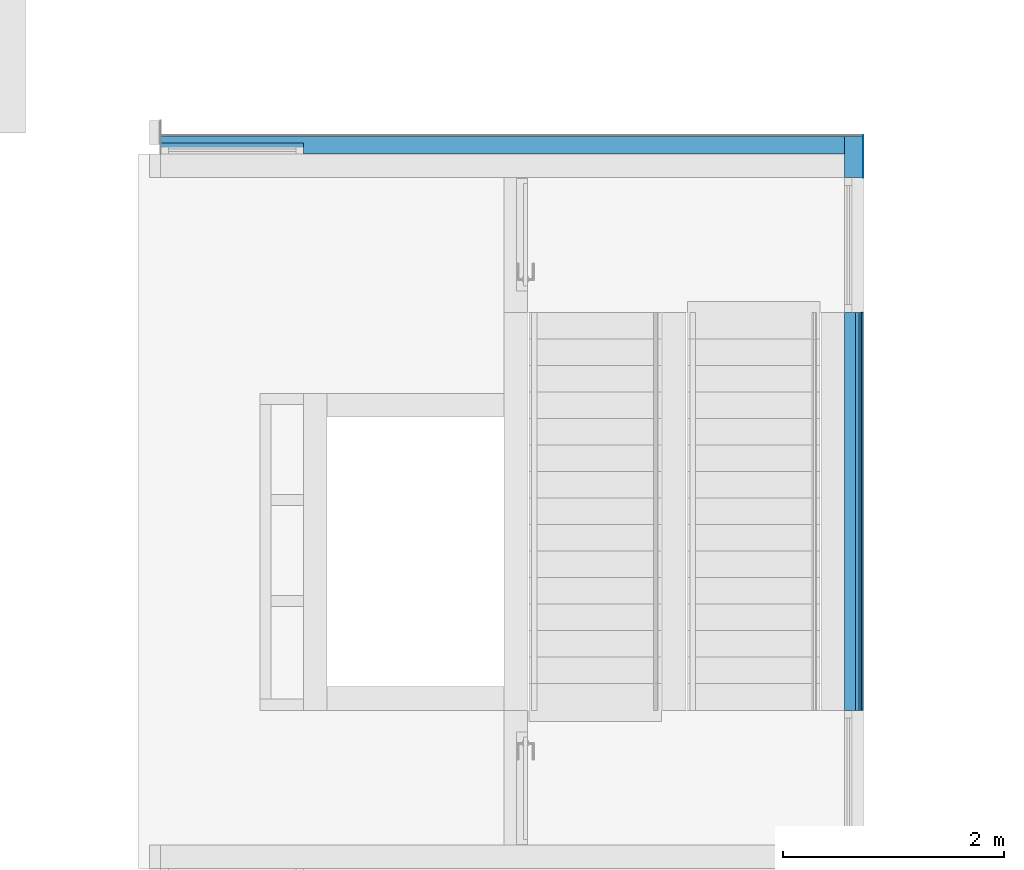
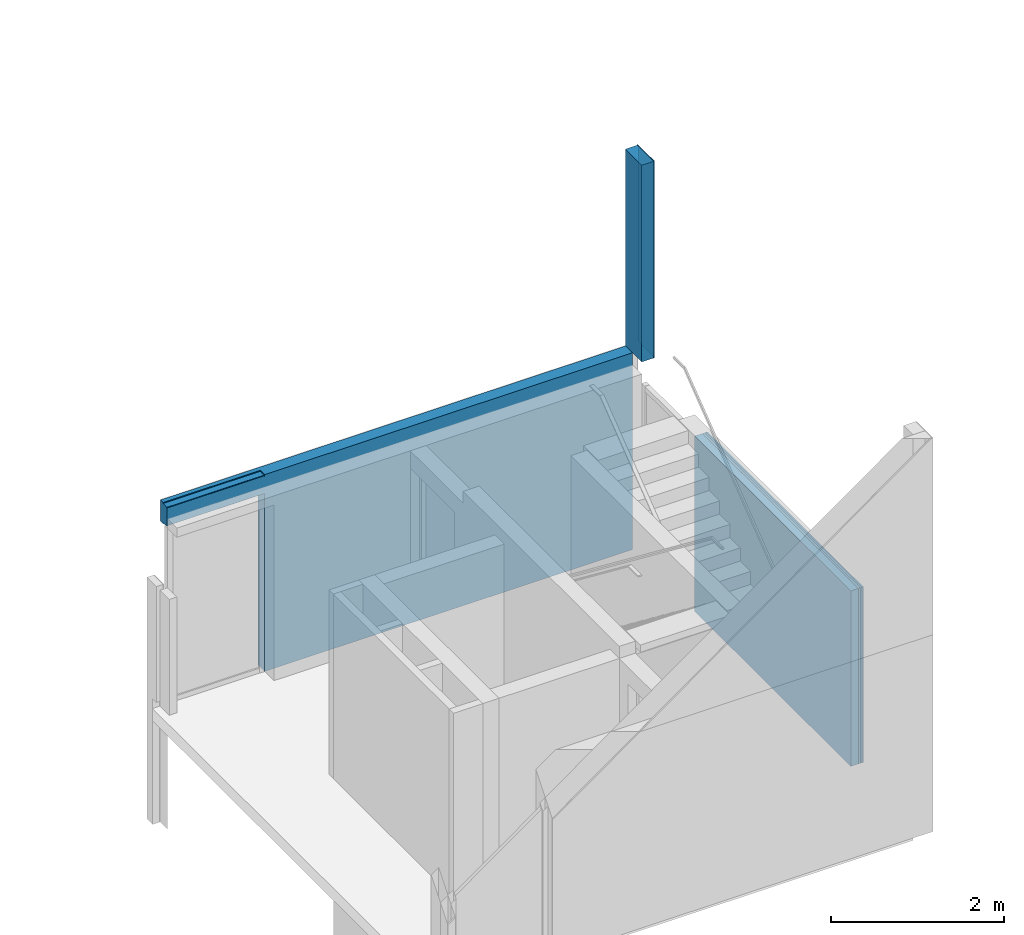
# One storey, part 75 of 99: 8 building element parts, 1 opening, 3 elements without a shape of their own.
"""IFC2X3 building model written with IfcOpenShell, lengths in millimetres."""

import ifcopenshell
import ifcopenshell.guid

model = None  # the IFC model being written
_history = None  # IfcOwnerHistory: only IFC2X3 demands one
_inside = {}  # id of a spatial element -> (the spatial element, [elements in it])
_under = {}  # id of a project, library or spatial element -> (it, [spatial elements below it])
_declared = {}  # id of a project -> (the project, [libraries it declares])
_typed = {}  # id of a type object -> (the type object, [elements of that type])
_made_of = {}  # id of a material, layer set ... -> (it, [elements and type objects made of it])


def new_model(schema):
    """Start an empty IFC model of exactly this schema.

    Asked for "IFC4X3", IfcOpenShell would pick the latest addendum, in which some entities
    have other attributes; the version numbers below select the first issue.
    IFC2X3 requires an IfcOwnerHistory on every rooted entity: one is made here for all.
    """
    global model, _history
    if schema == "IFC4X3":
        model = ifcopenshell.file(schema_version=(4, 3, 0, 0))
    else:
        model = ifcopenshell.file(schema=schema)
    _inside.clear()
    _under.clear()
    _declared.clear()
    _typed.clear()
    _made_of.clear()
    _history = None
    if model.schema == "IFC2X3":
        org = make("IfcOrganization", Name="unknown")
        user = make(
            "IfcPersonAndOrganization",
            ThePerson=make("IfcPerson", FamilyName="unknown"),
            TheOrganization=org,
        )
        app = make(
            "IfcApplication",
            ApplicationDeveloper=org,
            Version="unknown",
            ApplicationFullName="unknown",
            ApplicationIdentifier="unknown",
        )
        _history = make(
            "IfcOwnerHistory",
            OwningUser=user,
            OwningApplication=app,
            ChangeAction="ADDED",
            CreationDate=0,
        )
    return model


def make(cls, **values):
    """One entity of the class cls with the attributes given. An attribute that is None is left unset."""
    return model.create_entity(
        cls, **{name: value for name, value in values.items() if value is not None}
    )


def entity(cls, *values):
    """Any entity or typed value of the class cls, its attributes in the order of the schema. None: left unset."""
    e = model.create_entity(cls)
    for i, value in enumerate(values):
        if value is not None:
            e[i] = value
    return e


def rooted(cls, **values):
    """An entity with a GlobalId (a new one), such as an element, a storey or a relation."""
    return make(cls, GlobalId=ifcopenshell.guid.new(), OwnerHistory=_history, **values)


def si_unit(unit_type, name, prefix=None):
    """IfcSIUnit, for example si_unit("LENGTHUNIT", "METRE", prefix="MILLI")."""
    return make("IfcSIUnit", UnitType=unit_type, Prefix=prefix, Name=name)


def converted_unit(unit_type, name, factor, base, dimensions=None, offset=None):
    """IfcConversionBasedUnit, such as the inch: factor (a typed value) times the base unit."""
    return make(
        "IfcConversionBasedUnit"
        if offset is None
        else "IfcConversionBasedUnitWithOffset",
        ConversionOffset=offset,
        Dimensions=None
        if dimensions is None
        else entity("IfcDimensionalExponents", *dimensions),
        UnitType=unit_type,
        Name=name,
        ConversionFactor=make(
            "IfcMeasureWithUnit", ValueComponent=factor, UnitComponent=base
        ),
    )


def derived_unit(unit_type, elements):
    """IfcDerivedUnit: a product of units, each with its exponent."""
    return make(
        "IfcDerivedUnit",
        Elements=[
            make("IfcDerivedUnitElement", Unit=unit, Exponent=power)
            for unit, power in elements
        ],
        UnitType=unit_type,
    )


def money_unit(currency):
    """IfcMonetaryUnit."""
    return make("IfcMonetaryUnit", Currency=currency)


def assignment(units):
    """IfcUnitAssignment: the units of a project."""
    return None if units is None else make("IfcUnitAssignment", Units=units)


def point(xyz):
    """IfcCartesianPoint."""
    return None if xyz is None else make("IfcCartesianPoint", Coordinates=xyz)


def direction(xyz):
    """IfcDirection."""
    return None if xyz is None else make("IfcDirection", DirectionRatios=xyz)


def frame(location, z_axis=None, x_axis=None):
    """IfcAxis2Placement3D, a coordinate frame: its origin and axes. An axis left out is left unset."""
    return make(
        "IfcAxis2Placement3D",
        Location=point(location),
        Axis=direction(z_axis),
        RefDirection=direction(x_axis),
    )


def origin_with_axes():
    """The frame at (0, 0, 0) with the z axis (0, 0, 1) and the x axis (1, 0, 0) written out."""
    return frame((0.0, 0.0, 0.0), z_axis=(0.0, 0.0, 1.0), x_axis=(1.0, 0.0, 0.0))


def place(relative_to, where):
    """IfcLocalPlacement: puts the frame where relative to a parent placement (None: the world)."""
    return make(
        "IfcLocalPlacement", PlacementRelTo=relative_to, RelativePlacement=where
    )


def context(
    kind, dimensions, precision=None, world=None, true_north=None, identifier=None
):
    """IfcGeometricRepresentationContext, for example the 3D "Model" context."""
    return make(
        "IfcGeometricRepresentationContext",
        ContextIdentifier=identifier,
        ContextType=kind,
        CoordinateSpaceDimension=dimensions,
        Precision=precision,
        WorldCoordinateSystem=world,
        TrueNorth=true_north,
    )


def subcontext(parent, identifier, kind, view, scale=None):
    """IfcGeometricRepresentationSubContext, for example "Body" below "Model"."""
    return make(
        "IfcGeometricRepresentationSubContext",
        ContextIdentifier=identifier,
        ContextType=kind,
        ParentContext=parent,
        TargetScale=scale,
        TargetView=view,
    )


def project(units=None, contexts=None):
    """IfcProject with its units and contexts."""
    return rooted(
        "IfcProject",
        Name="project",
        RepresentationContexts=contexts,
        UnitsInContext=assignment(units),
    )


def spatial(cls, under=None, at=None, **own):
    """A site, building, storey or space (cls), placed at a placement, below another one or the project."""
    s = rooted(cls, ObjectPlacement=at, **own)
    if under is not None:
        _under.setdefault(under.id(), (under, []))[1].append(s)
    return s


def faces_of(points, faces, orient=None, outer=None):
    """IfcFace entities. A face is a list of loops; a loop is a list of indices into points, from 0.

    orient and outer hold one flag for each loop. By default every Orientation is true, the
    first loop of a face is its IfcFaceOuterBound and the others are IfcFaceBound.
    """
    made = []
    for i, loops in enumerate(faces):
        bounds = []
        for j, loop in enumerate(loops):
            is_outer = j == 0 if outer is None else outer[i][j]
            bounds.append(
                make(
                    "IfcFaceOuterBound" if is_outer else "IfcFaceBound",
                    Bound=make("IfcPolyLoop", Polygon=[points[k] for k in loop]),
                    Orientation=True if orient is None else orient[i][j],
                )
            )
        made.append(make("IfcFace", Bounds=bounds))
    return made


def faceted_brep(points, faces, orient=None, outer=None, voids=None):
    """IfcFacetedBrep: a solid bounded by flat faces; with voids (closed shells), ...WithVoids."""
    shared = [point(p) for p in points]
    hull = make("IfcClosedShell", CfsFaces=faces_of(shared, faces, orient, outer))
    if voids is None:
        return make("IfcFacetedBrep", Outer=hull)
    return make(
        "IfcFacetedBrepWithVoids",
        Outer=hull,
        Voids=[
            make(cls, CfsFaces=faces_of(shared, fs, o, b)) for cls, fs, o, b in voids
        ],
    )


def shape(context_of_items, identifier, shape_type, items):
    """IfcShapeRepresentation: the items that make up one representation, for example the "Body"."""
    return make(
        "IfcShapeRepresentation",
        ContextOfItems=context_of_items,
        RepresentationIdentifier=identifier,
        RepresentationType=shape_type,
        Items=items,
    )


def material(Name=None, Category=None):
    """IfcMaterial."""
    return make("IfcMaterial", Name=Name, Category=Category)


def made_of(thing, what):
    """Note that an element or type object is made of a material, layer set ...; save() writes the relation."""
    if what is not None:
        _made_of.setdefault(what.id(), (what, []))[1].append(thing)
    return thing


def type_object(cls, material=None, **own):
    """A type object (cls), such as IfcWallType, which elements share."""
    return made_of(rooted(cls, **own), material)


def element(
    cls,
    number,
    at=None,
    inside=None,
    cuts=None,
    type_object=None,
    material=None,
    context=None,
    identifier="Body",
    shape_type=None,
    held_by="IfcProductDefinitionShape",
    body=None,
    shapes=None,
    **own,
):
    """One element of the class cls, such as IfcWall. Its Tag is "e" and its number.

    at: its placement. inside: the storey or other place that contains it. cuts: it is an
    opening in that element (IfcRelVoidsElement). A single representation is given by context,
    identifier, shape_type and body (its items); several are given by shapes. held_by: the class
    of the entity that holds the representations. save() writes the other relations.
    """
    e = rooted(cls, Tag="e%d" % number, ObjectPlacement=at, **own)
    if body is not None:
        shapes = [shape(context, identifier, shape_type, body)]
    if shapes is not None:
        e.Representation = make(held_by, Representations=shapes)
    if inside is not None:
        _inside.setdefault(inside.id(), (inside, []))[1].append(e)
    if cuts is not None:
        rooted(
            "IfcRelVoidsElement", RelatingBuildingElement=cuts, RelatedOpeningElement=e
        )
    if type_object is not None:
        _typed.setdefault(type_object.id(), (type_object, []))[1].append(e)
    return made_of(e, material)


def aggregate(whole, parts):
    """IfcRelAggregates: a whole, such as a stair, and the parts it consists of."""
    return rooted("IfcRelAggregates", RelatingObject=whole, RelatedObjects=parts)


def save(model, path):
    """Write the relations noted so far, then the file.

    IfcRelAggregates (storeys below a building ...), IfcRelContainedInSpatialStructure (elements
    in a storey), IfcRelDefinesByType, IfcRelAssociatesMaterial and IfcRelDeclares: one each for
    every whole, place, type object, material and project.
    """
    for whole, parts in _under.values():
        aggregate(whole, parts)
    for where, things in _inside.values():
        rooted(
            "IfcRelContainedInSpatialStructure",
            RelatedElements=things,
            RelatingStructure=where,
        )
    for kind, things in _typed.values():
        rooted("IfcRelDefinesByType", RelatedObjects=things, RelatingType=kind)
    for what, things in _made_of.values():
        rooted("IfcRelAssociatesMaterial", RelatedObjects=things, RelatingMaterial=what)
    for by, libraries in _declared.values():
        rooted("IfcRelDeclares", RelatingContext=by, RelatedDefinitions=libraries)
    model.write(path)


model = new_model("IFC2X3")

# Units and contexts
model_context = context("Model", 3, precision=0.01, world=origin_with_axes(), true_north=direction((0.0, 1.0)))
body_context = subcontext(model_context, "Body", "Model", "MODEL_VIEW")
ifc_project = project(units=[si_unit("LENGTHUNIT", "METRE", prefix="MILLI"), si_unit("AREAUNIT", "SQUARE_METRE"), si_unit("VOLUMEUNIT", "CUBIC_METRE"), converted_unit("PLANEANGLEUNIT", "DEGREE", entity("IfcPlaneAngleMeasure", 0.0174532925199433), si_unit("PLANEANGLEUNIT", "RADIAN"), dimensions=[0, 0, 0, 0, 0, 0, 0]), money_unit("EUR"), converted_unit("TIMEUNIT", "Year", entity("IfcTimeMeasure", 31557600.0), si_unit("TIMEUNIT", "SECOND"), dimensions=[0, 0, 1, 0, 0, 0, 0]), si_unit("MASSUNIT", "GRAM", prefix="KILO"), si_unit("THERMODYNAMICTEMPERATUREUNIT", "DEGREE_CELSIUS"), si_unit("LUMINOUSINTENSITYUNIT", "LUMEN"), si_unit("ENERGYUNIT", "JOULE", prefix="MEGA"), derived_unit("THERMALCONDUCTANCEUNIT", [(si_unit("POWERUNIT", "WATT"), 1), (si_unit("LENGTHUNIT", "METRE"), -1), (si_unit("THERMODYNAMICTEMPERATUREUNIT", "KELVIN"), -1)]), derived_unit("SPECIFICHEATCAPACITYUNIT", [(si_unit("ENERGYUNIT", "JOULE"), 1), (si_unit("MASSUNIT", "GRAM", prefix="KILO"), -1), (si_unit("THERMODYNAMICTEMPERATUREUNIT", "KELVIN"), -1)]), derived_unit("MASSDENSITYUNIT", [(si_unit("MASSUNIT", "GRAM", prefix="KILO"), 1), (si_unit("VOLUMEUNIT", "CUBIC_METRE"), -1)])], contexts=[model_context])

# Site, building, storey
site_placement = place(None, origin_with_axes())
site = spatial("IfcSite", under=ifc_project, at=site_placement, Name="Site", CompositionType="ELEMENT")
building_placement = place(site_placement, origin_with_axes())
building = spatial("IfcBuilding", under=site, at=building_placement, Name="Naam gebouw", CompositionType="ELEMENT")
storey_placement = place(building_placement, frame((0.0, 0.0, 7650.0), z_axis=(0.0, 0.0, 1.0), x_axis=(1.0, 0.0, 0.0)))
storey = spatial("IfcBuildingStorey", under=building, at=storey_placement, Name="2e verdieping N", CompositionType="ELEMENT", Elevation=7650.0)

# Wall, building element parts
wall_type_1 = type_object("IfcWallType", Name="Basic Wall:41_WA_stucwerk op iso 170mm", PredefinedType="STANDARD")
wall_1_placement = place(storey_placement, frame((36665.50000005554, 39265.41242626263, 1039.999999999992), z_axis=(0.0, 0.0, 1.0), x_axis=(0.0, -1.0, 0.0)))
wall_1 = element("IfcWall", 1, at=wall_1_placement, inside=storey, type_object=wall_type_1, Name="Basic Wall:41_WA_stucwerk op iso 170mm")
ifc_material_1 = material(Name="Verflaag ral 7044  Zijdengrijs Isostuc")
building_element_part_1_placement = place(wall_1_placement, origin_with_axes())
building_element_part_1 = element("IfcBuildingElementPart", 2, at=building_element_part_1_placement, material=ifc_material_1, Name="Verflaag ral 7044  Zijdengrijs Isostuc", context=body_context, shape_type="Brep", body=[
    faceted_brep([(-85.50000002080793, 85.49999994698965, 0.0), (299.4999999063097, 85.49999998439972, 0.0), (299.4999999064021, 84.49999998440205, 0.0), (-85.50000002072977, 84.49999994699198, 0.0), (-85.50000002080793, 85.49999994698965, 2770.000000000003), (299.4999999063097, 85.49999998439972, 2770.000000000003), (299.4999999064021, 84.49999998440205, 2770.000000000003), (-85.50000002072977, 84.49999994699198, 2770.000000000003)], [[[0, 1, 2, 3]], [[4, 5, 1, 0]], [[2, 1, 5, 6]], [[3, 2, 6, 7]], [[4, 0, 3, 7]], [[7, 6, 5, 4]]]),
])
ifc_material_2 = material(Name="stucwerk - gevel gebouw V RAL 7044")
building_element_part_2_placement = place(wall_1_placement, origin_with_axes())
building_element_part_2 = element("IfcBuildingElementPart", 3, at=building_element_part_2_placement, material=ifc_material_2, Name="stucwerk - gevel gebouw V RAL 7044", context=body_context, shape_type="Brep", body=[
    faceted_brep([(-84.5000000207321, 84.49999994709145, 0.0), (299.4999999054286, 84.49999998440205, 0.0), (299.4999999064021, 74.49999998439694, 0.0), (-84.50000001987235, 74.49999994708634, 0.0), (-84.5000000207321, 84.49999994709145, 2770.000000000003), (299.4999999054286, 84.49999998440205, 2770.000000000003), (299.4999999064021, 74.49999998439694, 2770.000000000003), (-84.50000001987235, 74.49999994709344, 2770.000000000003)], [[[0, 1, 2, 3]], [[4, 5, 1, 0]], [[2, 1, 5, 6]], [[3, 2, 6, 7]], [[4, 0, 3, 7]], [[7, 6, 5, 4]]]),
])
ifc_material_3 = material(Name="isolatie_080_1-100")
building_element_part_3_placement = place(wall_1_placement, origin_with_axes())
building_element_part_3 = element("IfcBuildingElementPart", 4, at=building_element_part_3_placement, material=ifc_material_3, Name="isolatie_080_1-100", context=body_context, shape_type="Brep", body=[
    faceted_brep([(-74.50000001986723, 74.49999994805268, 0.0), (299.4999998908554, 74.49999998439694, 0.0), (299.4999999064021, -85.50000001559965, 0.0), (-74.50000000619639, -85.50000005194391, 0.0), (-74.50000001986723, 74.49999994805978, 2770.000000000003), (299.4999998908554, 74.49999998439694, 2770.000000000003), (299.4999999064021, -85.50000001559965, 2770.000000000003), (-74.50000000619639, -85.50000005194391, 2770.000000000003)], [[[0, 1, 2, 3]], [[4, 5, 1, 0]], [[2, 1, 5, 6]], [[3, 2, 6, 7]], [[4, 0, 3, 7]], [[7, 6, 5, 4]]]),
])
aggregate(wall_1, [building_element_part_1, building_element_part_2, building_element_part_3])

wall_type_2 = type_object("IfcWallType", Name="Basic Wall:41_WA_houten delen vert trappenhuis", PredefinedType="STANDARD")
wall_2_placement = place(storey_placement, frame((36665.0000000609, 34145.91242629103, -1729.99999999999), z_axis=(0.0, 0.0, 1.0), x_axis=(0.0, 1.0, 0.0)))
wall_2 = element("IfcWall", 5, at=wall_2_placement, inside=storey, type_object=wall_type_2, Name="Basic Wall:41_WA_houten delen vert trappenhuis")
ifc_material_4 = material(Name="luchtspouw")
building_element_part_4_placement = place(wall_2_placement, origin_with_axes())
building_element_part_4 = element("IfcBuildingElementPart", 6, at=building_element_part_4_placement, material=ifc_material_4, Name="luchtspouw", context=body_context, shape_type="Brep", body=[
    faceted_brep([(3599.999999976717, -16.00000003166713, 0.0), (3599.999999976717, -44.00000003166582, 0.0), (0.0, -44.00000003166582, 0.0), (0.0, -16.00000003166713, 0.0), (3599.999999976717, -16.00000003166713, 2469.999999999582), (3599.999999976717, -44.00000003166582, 2469.999999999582), (0.0, -44.00000003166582, 2469.999999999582), (0.0, -16.00000003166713, 2469.999999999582)], [[[0, 1, 2, 3]], [[0, 4, 5, 1]], [[1, 5, 6, 2]], [[3, 2, 6, 7]], [[4, 0, 3, 7]], [[5, 4, 7, 6]]]),
])
building_element_part_5_placement = place(wall_2_placement, origin_with_axes())
building_element_part_5 = element("IfcBuildingElementPart", 7, at=building_element_part_5_placement, material=ifc_material_4, Name="luchtspouw", context=body_context, shape_type="Brep", body=[
    faceted_brep([(3599.999999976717, -44.00000003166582, 0.0), (3599.999999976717, -66.00000003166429, 0.0), (0.0, -66.00000003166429, 0.0), (0.0, -44.00000003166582, 0.0), (3599.999999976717, -44.00000003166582, 2469.999999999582), (3599.999999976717, -66.00000003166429, 2469.999999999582), (0.0, -66.00000003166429, 2469.999999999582), (0.0, -44.00000003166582, 2469.999999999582)], [[[0, 1, 2, 3]], [[0, 4, 5, 1]], [[1, 5, 6, 2]], [[3, 2, 6, 7]], [[4, 0, 3, 7]], [[5, 4, 7, 6]]]),
])
ifc_material_5 = material(Name="isolatie")
building_element_part_6_placement = place(wall_2_placement, origin_with_axes())
building_element_part_6 = element("IfcBuildingElementPart", 8, at=building_element_part_6_placement, material=ifc_material_5, Name="isolatie", context=body_context, shape_type="Brep", body=[
    faceted_brep([(3599.999999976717, 83.9999999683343, 0.0), (3599.999999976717, -16.00000003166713, 0.0), (0.0, -16.00000003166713, 0.0), (0.0, 83.9999999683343, 0.0), (3599.999999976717, 83.9999999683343, 2469.999999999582), (3599.999999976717, -16.00000003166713, 2469.999999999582), (0.0, -16.00000003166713, 2469.999999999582), (0.0, 83.9999999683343, 2469.999999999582)], [[[0, 1, 2, 3]], [[0, 4, 5, 1]], [[1, 5, 6, 2]], [[3, 2, 6, 7]], [[4, 0, 3, 7]], [[5, 4, 7, 6]]]),
])
ifc_material_6 = material(Name="Houten delen vert")
building_element_part_7_placement = place(wall_2_placement, origin_with_axes())
building_element_part_7 = element("IfcBuildingElementPart", 9, at=building_element_part_7_placement, material=ifc_material_6, Name="Houten delen vert", context=body_context, shape_type="Brep", body=[
    faceted_brep([(3599.999999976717, -66.00000003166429, 0.0), (3599.999999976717, -84.00000003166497, 0.0), (0.0, -84.00000003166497, 0.0), (0.0, -66.00000003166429, 0.0), (3599.999999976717, -66.00000003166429, 2469.999999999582), (3599.999999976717, -84.00000003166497, 2469.999999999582), (0.0, -84.00000003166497, 2469.999999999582), (0.0, -66.00000003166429, 2469.999999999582)], [[[0, 1, 2, 3]], [[0, 4, 5, 1]], [[1, 5, 6, 2]], [[3, 2, 6, 7]], [[4, 0, 3, 7]], [[5, 4, 7, 6]]]),
])
aggregate(wall_2, [building_element_part_4, building_element_part_5, building_element_part_6, building_element_part_7])

# Wall, opening, building element part
wall_3_placement = place(storey_placement, frame((30391.00000005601, 39265.41242626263, -1729.99999999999), z_axis=(0.0, 0.0, 1.0), x_axis=(1.0, 0.0, 0.0)))
wall_3 = element("IfcWall", 10, at=wall_3_placement, inside=storey, type_object=wall_type_1, Name="Basic Wall:41_WA_stucwerk op iso 170mm")
opening_placement = place(wall_3_placement, frame((-30391.00000005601, -39265.41242626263, -5920.000000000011), z_axis=(0.0, 0.0, 1.0), x_axis=(1.0, 0.0, 0.0)))
element("IfcOpeningElement", 11, at=opening_placement, cuts=wall_3, Name="Basic Wall:41_WA_stucwerk op iso 170mm", context=body_context, shape_type="Brep", body=[
    faceted_brep([(30391.00000005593, 39027.5124262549, 5919.999999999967), (30391.00000005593, 39027.5124262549, 8390.000000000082), (30391.00000005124, 39503.3124262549, 8390.000000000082), (30391.00000005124, 39503.3124262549, 5919.999999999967), (31685.01028267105, 39027.51242626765, 5919.999999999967), (31685.01028267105, 39027.51242626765, 8390.000000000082), (31685.01028266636, 39503.31242626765, 8390.000000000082), (31685.01028266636, 39503.31242626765, 5919.999999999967)], [[[0, 1, 2, 3]], [[0, 4, 5, 1]], [[1, 5, 6, 2]], [[3, 2, 6, 7]], [[4, 0, 3, 7]], [[5, 4, 7, 6]]]),
])
building_element_part_8_placement = place(wall_3_placement, origin_with_axes())
building_element_part_8 = element("IfcBuildingElementPart", 12, at=building_element_part_8_placement, material=ifc_material_3, Name="isolatie_080_1-100", context=body_context, shape_type="Brep", body=[
    faceted_brep([(1294.002198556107, 14.49969103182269, 2769.999999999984), (1294.002198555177, -85.50030896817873, 2769.999999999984), (6189.999999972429, -85.50000004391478, 2770.000000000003), (6189.999999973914, 74.49999995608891, 2770.000000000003), (6.892264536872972e-10, 74.50000001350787, 2770.000000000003), (2.923883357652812e-08, 14.49969104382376, 2769.999999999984), (1294.002198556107, 14.49969103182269, 2764.099999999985), (1294.002198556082, 12.15654528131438, 2758.443145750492), (1294.002198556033, 6.499691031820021, 2756.099999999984), (1294.002198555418, -59.50030896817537, 2752.799999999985), (1294.002198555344, -67.50030896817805, 2750.656406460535), (1294.00219855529, -73.35671542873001, 2744.799999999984), (1294.002198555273, -75.50030896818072, 2736.799999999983), (1294.002198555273, -75.50030896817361, 2503.199999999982), (1294.00219855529, -73.35671542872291, 2495.199999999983), (1294.002198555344, -67.50030896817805, 2489.343593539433), (1294.002198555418, -59.50030896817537, 2487.199999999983), (1294.002198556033, 6.499691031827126, 2483.899999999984), (1294.002198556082, 12.15654528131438, 2481.556854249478), (1294.002198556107, 14.49969103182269, 2475.899999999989), (1294.002198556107, 14.49969103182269, 2469.999999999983), (1294.002198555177, -85.50030896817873, 2469.999999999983), (1294.010282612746, -85.49999999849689, 0.0), (6189.999999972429, -85.50000004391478, 0.0), (6189.999999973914, 74.49999995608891, 0.0), (1294.010282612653, 74.5000000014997, 0.0), (1294.010282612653, 74.5000000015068, 2470.000000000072), (-2.465583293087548e-09, 74.50000001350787, 2470.000000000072), (2.923883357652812e-08, 14.49969104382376, 2764.099999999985), (2.923883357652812e-08, 14.49969104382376, 2469.999999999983), (2.923883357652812e-08, 14.49969104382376, 2475.899999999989), (2.921396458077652e-08, 12.15654529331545, 2481.556854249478), (2.916422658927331e-08, 6.499691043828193, 2483.899999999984), (2.854960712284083e-08, -59.50030895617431, 2487.199999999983), (2.847500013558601e-08, -67.50030895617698, 2489.343593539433), (2.842170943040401e-08, -73.35671541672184, 2495.199999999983), (2.840394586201e-08, -75.50030895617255, 2503.199999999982), (2.840394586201e-08, -75.50030895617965, 2736.799999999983), (2.842170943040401e-08, -73.35671541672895, 2744.799999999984), (2.847500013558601e-08, -67.50030895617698, 2750.656406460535), (2.854960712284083e-08, -59.50030895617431, 2752.799999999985), (2.916422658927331e-08, 6.499691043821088, 2756.099999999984), (2.921396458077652e-08, 12.15654529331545, 2758.443145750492)], [[[0, 1, 2, 3, 4, 5]], [[1, 0, 6, 7, 8, 9, 10, 11, 12, 13, 14, 15, 16, 17, 18, 19, 20, 21]], [[1, 21, 22, 23, 2]], [[24, 3, 2, 23]], [[25, 26, 27, 4, 3, 24]], [[28, 5, 4, 27, 29, 30, 31, 32, 33, 34, 35, 36, 37, 38, 39, 40, 41, 42]], [[0, 5, 28, 6]], [[28, 42, 7, 6]], [[42, 41, 8, 7]], [[41, 40, 9, 8]], [[40, 39, 10, 9]], [[39, 38, 11, 10]], [[38, 37, 12, 11]], [[37, 36, 13, 12]], [[36, 35, 14, 13]], [[35, 34, 15, 14]], [[34, 33, 16, 15]], [[33, 32, 17, 16]], [[32, 31, 18, 17]], [[31, 30, 19, 18]], [[29, 20, 19, 30]], [[21, 20, 26, 25, 22]], [[23, 22, 25, 24]], [[20, 29, 27, 26]]]),
])
aggregate(wall_3, [building_element_part_8])

save(model, "model.ifc")
